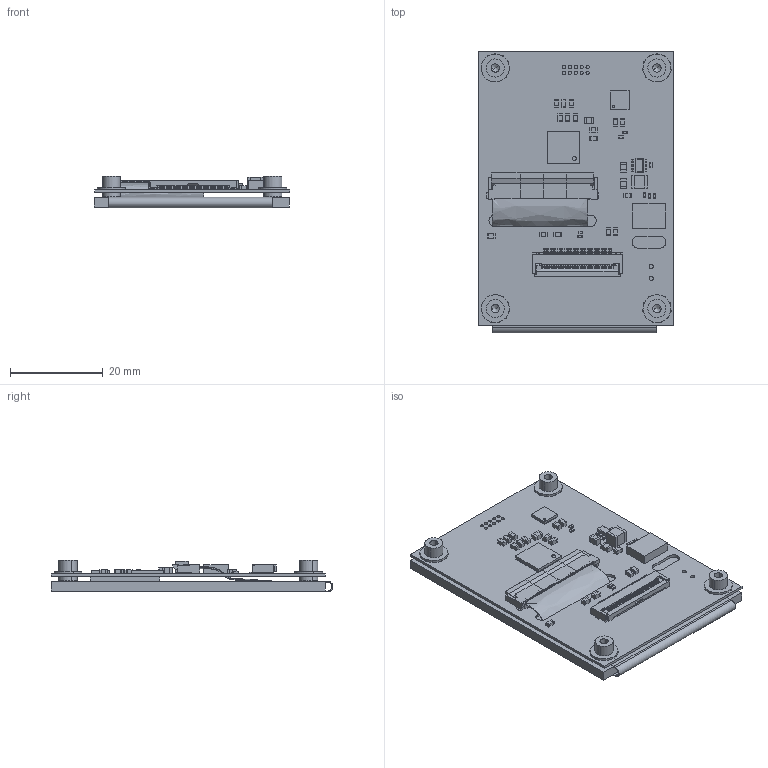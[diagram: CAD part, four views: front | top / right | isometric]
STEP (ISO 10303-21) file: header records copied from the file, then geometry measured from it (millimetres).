
FILE_DESCRIPTION (( 'STEP AP214' ), '1' );
FILE_NAME ('CFAF240320A0-024SN-A1-1.STEP', '2021-01-20T17:48:12', ( '' ), ( '' ), 'SwSTEP 2.0', 'SolidWorks 2020', '' );
FILE_SCHEMA (( 'AUTOMOTIVE_DESIGN' ));
Length unit declared in the file: millimetre
Products named in the file (6): CFAF240320A0-24SN; VHB_TapeShort; cfa_10109; CFPN_01712; CFAF240320A0-024SN-A1-1; Tail^CFAF240320A0-024SN-A1-1
Assembly tree (8 placements, depth 2):
  CFAF240320A0-024SN-A1-1
    cfa_10109
    CFAF240320A0-24SN
    VHB_TapeShort
    Tail^CFAF240320A0-024SN-A1-1
    CFPN_01712  x4
Bounding box: 42.04 x 60.65 x 6.86 mm (x, y, z)
Volume: 5776.1 mm3; surface area: 15473.1 mm2
Topology: 7 solids, 223 shells, 6354 faces, 17254 edges, 11226 vertices
Faces by surface type: plane 4916, cylinder 1403, sphere 16, bspline 11, cone 8
Entity records: 212285 total; most frequent: CARTESIAN_POINT 50066, ORIENTED_EDGE 34076, DIRECTION 27730, EDGE_CURVE 17160, VERTEX_POINT 11175, LINE 9664, VECTOR 9664, AXIS2_PLACEMENT_3D 9033
